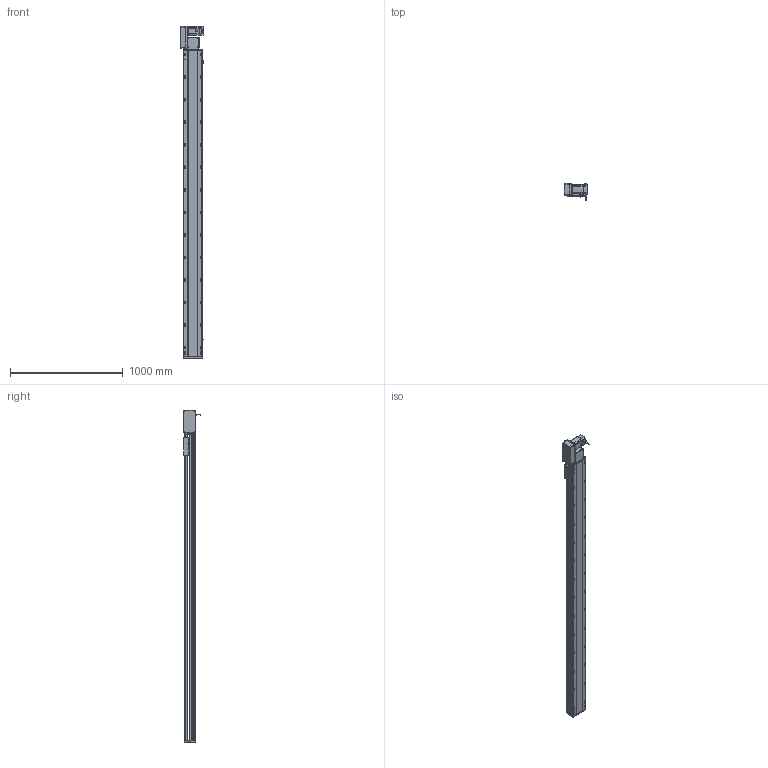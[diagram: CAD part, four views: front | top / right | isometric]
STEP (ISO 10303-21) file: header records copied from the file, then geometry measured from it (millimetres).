
FILE_DESCRIPTION (( 'STEP AP214' ), '1' );
FILE_NAME ('RTB17S-XX-2450-L-M75-C4.STEP', '2025-12-12T00:21:30', ( '' ), ( '' ), 'SwSTEP 2.0', 'SolidWorks 2018', '' );
FILE_SCHEMA (( 'AUTOMOTIVE_DESIGN' ));
Length unit declared in the file: millimetre
Products named in the file (15): RTB22S-GY-005P^RTB17S-L-々湍釱蚾饜-750W_RTB17S-XX-XX-L-M75-C4; RTB17S-L-々湍釱蚾饜-750W^RTB17S-XX-XX-L-M75-C4; RTB22S-GY-008-M75--萇儂啣^RTB17S-L-々湍釱蚾饜-750W_RTB17S-XX-XX-L-M75-C4; RTB17S-L-001-耜醱啣^RTB17S-XX-XX-L-M75-C4; RMP17S-L-014-T20-P75--々湍釱^RTB17S-L-々湍釱蚾饜-750W_RTB17S-XX-XX-L-M75-C4; RTB17S-XX-2450-L-M75-C4; RTB17S-L-004-賑釱^RTB17S-賑釱_RTB17S-XX-XX-L-M75-C4; 750W萇儂^RTB17S-XX-XX-L-M75-C4; RTB22S-GY-018P^RTB17S-L-々湍釱蚾饜-750W_RTB17S-XX-XX-L-M75-C4; RTB17S-賑釱^RTB17S-XX-XX-L-M75-C4; RTB22S-GY-017P^RTB17S-L-々湍釱蚾饜-750W_RTB17S-XX-XX-L-M75-C4; RTH13-BL-012覜茼え俋离^RTB17S-賑釱_RTB17S-XX-XX-L-M75-C4; RTB17-R-011菁釱^RTB17S-XX-XX-L-M75-C4; RTB17S-L-007奻裔^RTB17S-XX-XX-L-M75-C4; EE672^RTB17S-XX-XX-L-M75-C4
Assembly tree (17 placements, depth 3):
  RTB17S-XX-2450-L-M75-C4
    RTB17-R-011菁釱^RTB17S-XX-XX-L-M75-C4
    EE672^RTB17S-XX-XX-L-M75-C4  x3
    RTB17S-L-001-耜醱啣^RTB17S-XX-XX-L-M75-C4
    RTB17S-賑釱^RTB17S-XX-XX-L-M75-C4
      RTB17S-L-004-賑釱^RTB17S-賑釱_RTB17S-XX-XX-L-M75-C4
      RTH13-BL-012覜茼え俋离^RTB17S-賑釱_RTB17S-XX-XX-L-M75-C4
    RTB17S-L-007奻裔^RTB17S-XX-XX-L-M75-C4
    750W萇儂^RTB17S-XX-XX-L-M75-C4
    RTB17S-L-々湍釱蚾饜-750W^RTB17S-XX-XX-L-M75-C4
      RMP17S-L-014-T20-P75--々湍釱^RTB17S-L-々湍釱蚾饜-750W_RTB17S-XX-XX-L-M75-C4
      RTB22S-GY-005P^RTB17S-L-々湍釱蚾饜-750W_RTB17S-XX-XX-L-M75-C4
      RTB22S-GY-017P^RTB17S-L-々湍釱蚾饜-750W_RTB17S-XX-XX-L-M75-C4  x2
      RTB22S-GY-008-M75--萇儂啣^RTB17S-L-々湍釱蚾饜-750W_RTB17S-XX-XX-L-M75-C4
      RTB22S-GY-018P^RTB17S-L-々湍釱蚾饜-750W_RTB17S-XX-XX-L-M75-C4
Bounding box: 210.4 x 152.7 x 2949 mm (x, y, z)
Volume: 21260077.2 mm3; surface area: 3853795.1 mm2
Topology: 17 solids, 17 shells, 2217 faces, 6214 edges, 4022 vertices
Faces by surface type: plane 986, cylinder 815, bspline 294, cone 110, sphere 8, torus 4
Entity records: 64246 total; most frequent: CARTESIAN_POINT 19078, ORIENTED_EDGE 9272, DIRECTION 8582, EDGE_CURVE 4636, AXIS2_PLACEMENT_3D 3042, VERTEX_POINT 3026, LINE 2498, VECTOR 2498
